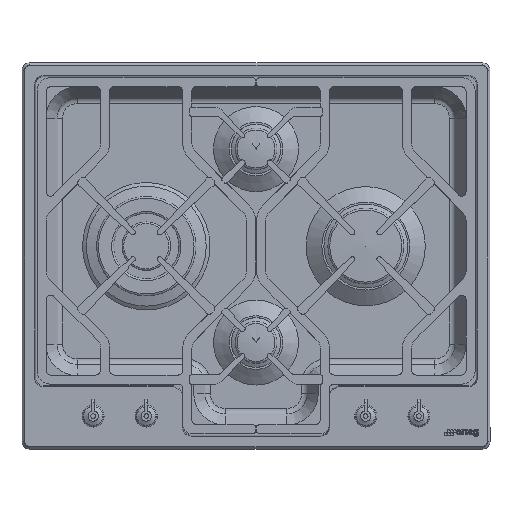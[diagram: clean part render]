
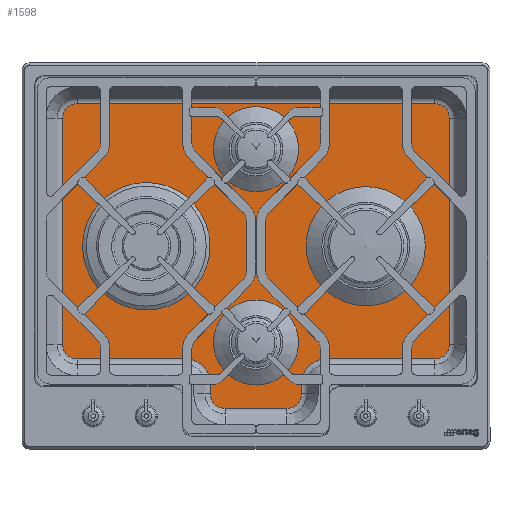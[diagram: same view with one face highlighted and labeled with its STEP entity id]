
A CAD part, top view. The second image highlights one B-rep face of the part: STEP entity #1598.
In plain terms, the highlighted planar face has unit normal (0, 0, 1).
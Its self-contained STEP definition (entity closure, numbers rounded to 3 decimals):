
#1598=ADVANCED_FACE('',(#2662,#2663,#2664,#2665,#2666),#2199,.T.);
#2199=PLANE('',#13069);
#2662=FACE_BOUND('',#3298,.T.);
#2663=FACE_BOUND('',#3299,.T.);
#2664=FACE_BOUND('',#3300,.T.);
#2665=FACE_BOUND('',#3301,.T.);
#2666=FACE_BOUND('',#3302,.T.);
#3298=EDGE_LOOP('',(#6936));
#3299=EDGE_LOOP('',(#6937));
#3300=EDGE_LOOP('',(#6938,#6939,#6940,#6941,#6942,#6943,#6944,#6945,#6946,
#6947,#6948,#6949,#6950,#6951,#6952,#6953));
#3301=EDGE_LOOP('',(#6954));
#3302=EDGE_LOOP('',(#6955));
#4174=LINE('',#19451,#5128);
#4175=LINE('',#19456,#5129);
#4176=LINE('',#19460,#5130);
#4177=LINE('',#19464,#5131);
#4178=LINE('',#19468,#5132);
#4179=LINE('',#19472,#5133);
#4180=LINE('',#19476,#5134);
#4181=LINE('',#19480,#5135);
#5128=VECTOR('',#15379,1.);
#5129=VECTOR('',#15382,1.);
#5130=VECTOR('',#15385,1.);
#5131=VECTOR('',#15388,1.);
#5132=VECTOR('',#15391,1.);
#5133=VECTOR('',#15394,1.);
#5134=VECTOR('',#15397,1.);
#5135=VECTOR('',#15400,1.);
#6936=ORIENTED_EDGE('',*,*,#10787,.F.);
#6937=ORIENTED_EDGE('',*,*,#10788,.T.);
#6938=ORIENTED_EDGE('',*,*,#10789,.F.);
#6939=ORIENTED_EDGE('',*,*,#10790,.F.);
#6940=ORIENTED_EDGE('',*,*,#10791,.F.);
#6941=ORIENTED_EDGE('',*,*,#10792,.F.);
#6942=ORIENTED_EDGE('',*,*,#10793,.F.);
#6943=ORIENTED_EDGE('',*,*,#10794,.F.);
#6944=ORIENTED_EDGE('',*,*,#10795,.F.);
#6945=ORIENTED_EDGE('',*,*,#10796,.F.);
#6946=ORIENTED_EDGE('',*,*,#10797,.F.);
#6947=ORIENTED_EDGE('',*,*,#10798,.F.);
#6948=ORIENTED_EDGE('',*,*,#10799,.F.);
#6949=ORIENTED_EDGE('',*,*,#10800,.F.);
#6950=ORIENTED_EDGE('',*,*,#10801,.F.);
#6951=ORIENTED_EDGE('',*,*,#10802,.F.);
#6952=ORIENTED_EDGE('',*,*,#10803,.F.);
#6953=ORIENTED_EDGE('',*,*,#10804,.F.);
#6954=ORIENTED_EDGE('',*,*,#10805,.T.);
#6955=ORIENTED_EDGE('',*,*,#10806,.T.);
#9480=VERTEX_POINT('',#19448);
#9481=VERTEX_POINT('',#19450);
#9482=VERTEX_POINT('',#19452);
#9483=VERTEX_POINT('',#19453);
#9484=VERTEX_POINT('',#19455);
#9485=VERTEX_POINT('',#19457);
#9486=VERTEX_POINT('',#19459);
#9487=VERTEX_POINT('',#19461);
#9488=VERTEX_POINT('',#19463);
#9489=VERTEX_POINT('',#19465);
#9490=VERTEX_POINT('',#19467);
#9491=VERTEX_POINT('',#19469);
#9492=VERTEX_POINT('',#19471);
#9493=VERTEX_POINT('',#19473);
#9494=VERTEX_POINT('',#19475);
#9495=VERTEX_POINT('',#19477);
#9496=VERTEX_POINT('',#19479);
#9497=VERTEX_POINT('',#19481);
#9498=VERTEX_POINT('',#19484);
#9499=VERTEX_POINT('',#19486);
#10787=EDGE_CURVE('',#9480,#9480,#12080,.T.);
#10788=EDGE_CURVE('',#9481,#9481,#12081,.T.);
#10789=EDGE_CURVE('',#9482,#9483,#4174,.T.);
#10790=EDGE_CURVE('',#9484,#9482,#12082,.T.);
#10791=EDGE_CURVE('',#9485,#9484,#4175,.T.);
#10792=EDGE_CURVE('',#9486,#9485,#12083,.T.);
#10793=EDGE_CURVE('',#9487,#9486,#4176,.T.);
#10794=EDGE_CURVE('',#9488,#9487,#12084,.T.);
#10795=EDGE_CURVE('',#9489,#9488,#4177,.T.);
#10796=EDGE_CURVE('',#9490,#9489,#12085,.T.);
#10797=EDGE_CURVE('',#9491,#9490,#4178,.T.);
#10798=EDGE_CURVE('',#9492,#9491,#12086,.T.);
#10799=EDGE_CURVE('',#9493,#9492,#4179,.T.);
#10800=EDGE_CURVE('',#9494,#9493,#12087,.T.);
#10801=EDGE_CURVE('',#9495,#9494,#4180,.T.);
#10802=EDGE_CURVE('',#9496,#9495,#12088,.T.);
#10803=EDGE_CURVE('',#9497,#9496,#4181,.T.);
#10804=EDGE_CURVE('',#9483,#9497,#12089,.T.);
#10805=EDGE_CURVE('',#9498,#9498,#12090,.T.);
#10806=EDGE_CURVE('',#9499,#9499,#12091,.T.);
#12080=CIRCLE('',#13057,83.956);
#12081=CIRCLE('',#13058,56.023);
#12082=CIRCLE('',#13059,19.639);
#12083=CIRCLE('',#13060,32.361);
#12084=CIRCLE('',#13061,19.639);
#12085=CIRCLE('',#13062,19.639);
#12086=CIRCLE('',#13063,19.639);
#12087=CIRCLE('',#13064,19.639);
#12088=CIRCLE('',#13065,32.361);
#12089=CIRCLE('',#13066,19.639);
#12090=CIRCLE('',#13067,56.023);
#12091=CIRCLE('',#13068,78.523);
#13057=AXIS2_PLACEMENT_3D('',#19447,#15375,#15376);
#13058=AXIS2_PLACEMENT_3D('',#19449,#15377,#15378);
#13059=AXIS2_PLACEMENT_3D('',#19454,#15380,#15381);
#13060=AXIS2_PLACEMENT_3D('',#19458,#15383,#15384);
#13061=AXIS2_PLACEMENT_3D('',#19462,#15386,#15387);
#13062=AXIS2_PLACEMENT_3D('',#19466,#15389,#15390);
#13063=AXIS2_PLACEMENT_3D('',#19470,#15392,#15393);
#13064=AXIS2_PLACEMENT_3D('',#19474,#15395,#15396);
#13065=AXIS2_PLACEMENT_3D('',#19478,#15398,#15399);
#13066=AXIS2_PLACEMENT_3D('',#19482,#15401,#15402);
#13067=AXIS2_PLACEMENT_3D('',#19483,#15403,#15404);
#13068=AXIS2_PLACEMENT_3D('',#19485,#15405,#15406);
#13069=AXIS2_PLACEMENT_3D('',#19487,#15407,#15408);
#15375=DIRECTION('',(0.,0.,1.));
#15376=DIRECTION('',(1.,0.,0.));
#15377=DIRECTION('',(0.,0.,-1.));
#15378=DIRECTION('',(1.,0.,0.));
#15379=DIRECTION('',(-1.,0.,0.));
#15380=DIRECTION('',(0.,0.,-1.));
#15381=DIRECTION('',(1.,0.,0.));
#15382=DIRECTION('',(0.,-1.,0.));
#15383=DIRECTION('',(0.,0.,1.));
#15384=DIRECTION('',(1.,0.,0.));
#15385=DIRECTION('',(-1.,0.,0.));
#15386=DIRECTION('',(0.,0.,-1.));
#15387=DIRECTION('',(1.,0.,0.));
#15388=DIRECTION('',(0.,-1.,0.));
#15389=DIRECTION('',(0.,0.,-1.));
#15390=DIRECTION('',(1.,0.,0.));
#15391=DIRECTION('',(1.,0.,0.));
#15392=DIRECTION('',(0.,0.,-1.));
#15393=DIRECTION('',(1.,0.,0.));
#15394=DIRECTION('',(0.,1.,0.));
#15395=DIRECTION('',(0.,0.,-1.));
#15396=DIRECTION('',(1.,0.,0.));
#15397=DIRECTION('',(-1.,0.,0.));
#15398=DIRECTION('',(0.,0.,1.));
#15399=DIRECTION('',(1.,0.,0.));
#15400=DIRECTION('',(0.,1.,0.));
#15401=DIRECTION('',(0.,0.,-1.));
#15402=DIRECTION('',(1.,0.,0.));
#15403=DIRECTION('',(0.,0.,-1.));
#15404=DIRECTION('',(1.,0.,0.));
#15405=DIRECTION('',(0.,0.,-1.));
#15406=DIRECTION('',(1.,0.,0.));
#15407=DIRECTION('',(0.,0.,1.));
#15408=DIRECTION('',(1.,0.,0.));
#19447=CARTESIAN_POINT('',(-603.219,277.323,-39.5));
#19448=CARTESIAN_POINT('',(-519.263,277.323,-39.5));
#19449=CARTESIAN_POINT('',(-458.569,150.323,-39.5));
#19450=CARTESIAN_POINT('',(-402.545,150.323,-39.5));
#19451=CARTESIAN_POINT('',(-418.069,63.383,-39.5));
#19452=CARTESIAN_POINT('',(-418.069,63.383,-39.5));
#19453=CARTESIAN_POINT('',(-499.069,63.383,-39.5));
#19454=CARTESIAN_POINT('',(-418.069,83.023,-39.5));
#19455=CARTESIAN_POINT('',(-398.429,83.023,-39.5));
#19456=CARTESIAN_POINT('',(-398.429,83.023,-39.5));
#19457=CARTESIAN_POINT('',(-398.429,96.323,-39.5));
#19458=CARTESIAN_POINT('',(-366.069,96.323,-39.5));
#19459=CARTESIAN_POINT('',(-366.069,128.683,-39.5));
#19460=CARTESIAN_POINT('',(-418.069,128.683,-39.5));
#19461=CARTESIAN_POINT('',(-223.169,128.683,-39.5));
#19462=CARTESIAN_POINT('',(-223.169,148.323,-39.5));
#19463=CARTESIAN_POINT('',(-203.529,148.323,-39.5));
#19464=CARTESIAN_POINT('',(-203.529,83.023,-39.5));
#19465=CARTESIAN_POINT('',(-203.529,445.723,-39.5));
#19466=CARTESIAN_POINT('',(-223.169,445.723,-39.5));
#19467=CARTESIAN_POINT('',(-223.169,465.362,-39.5));
#19468=CARTESIAN_POINT('',(-418.069,465.362,-39.5));
#19469=CARTESIAN_POINT('',(-693.969,465.362,-39.5));
#19470=CARTESIAN_POINT('',(-693.969,445.723,-39.5));
#19471=CARTESIAN_POINT('',(-713.608,445.723,-39.5));
#19472=CARTESIAN_POINT('',(-713.608,83.023,-39.5));
#19473=CARTESIAN_POINT('',(-713.608,148.323,-39.5));
#19474=CARTESIAN_POINT('',(-693.969,148.323,-39.5));
#19475=CARTESIAN_POINT('',(-693.969,128.683,-39.5));
#19476=CARTESIAN_POINT('',(-418.069,128.683,-39.5));
#19477=CARTESIAN_POINT('',(-551.069,128.683,-39.5));
#19478=CARTESIAN_POINT('',(-551.069,96.323,-39.5));
#19479=CARTESIAN_POINT('',(-518.708,96.323,-39.5));
#19480=CARTESIAN_POINT('',(-518.708,83.023,-39.5));
#19481=CARTESIAN_POINT('',(-518.708,83.023,-39.5));
#19482=CARTESIAN_POINT('',(-499.069,83.023,-39.5));
#19483=CARTESIAN_POINT('',(-458.569,405.323,-39.5));
#19484=CARTESIAN_POINT('',(-402.545,405.323,-39.5));
#19485=CARTESIAN_POINT('',(-313.919,277.323,-39.5));
#19486=CARTESIAN_POINT('',(-235.395,277.323,-39.5));
#19487=CARTESIAN_POINT('',(-418.069,83.023,-39.5));
